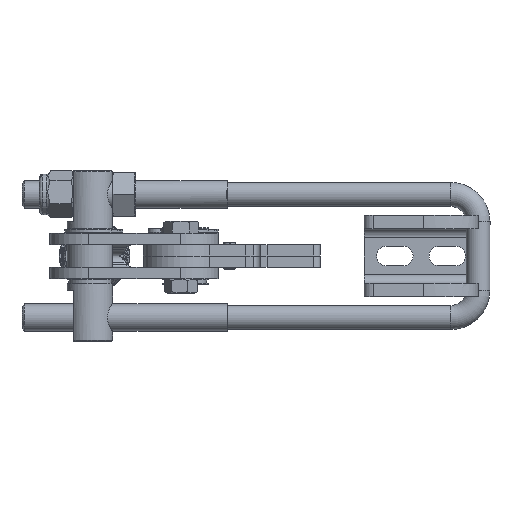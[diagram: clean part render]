
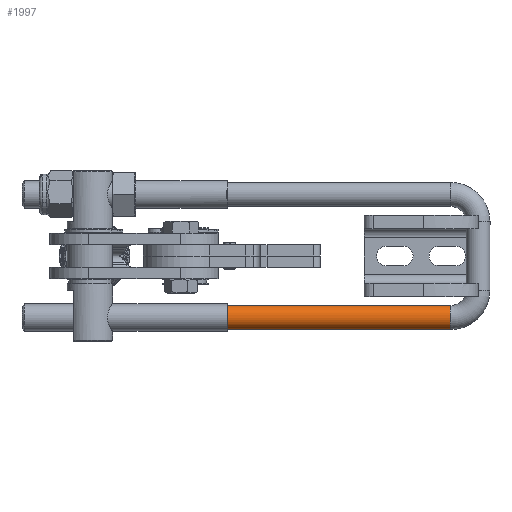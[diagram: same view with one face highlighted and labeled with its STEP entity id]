
A CAD part, left-side view. The second image highlights one B-rep face of the part: STEP entity #1997.
In plain terms, the highlighted cylindrical face has radius 5.25 mm (diameter 10.5 mm), a partial arc.
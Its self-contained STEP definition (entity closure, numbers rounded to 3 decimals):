
#1228 = EDGE_CURVE ( 'NONE', #21618, #2959, #1615, .T. ) ;
#1615 = LINE ( 'NONE', #12758, #5991 ) ;
#1847 = DIRECTION ( 'NONE',  ( 1., 0., 0. ) ) ;
#1997 = ADVANCED_FACE ( 'NONE', ( #18119 ), #3466, .T. ) ;
#2959 = VERTEX_POINT ( 'NONE', #8823 ) ;
#3431 = VERTEX_POINT ( 'NONE', #14204 ) ;
#3466 = CYLINDRICAL_SURFACE ( 'NONE', #21736, 5.25 ) ;
#5488 = DIRECTION ( 'NONE',  ( 0., 0., 1. ) ) ;
#5905 = VERTEX_POINT ( 'NONE', #8344 ) ;
#5991 = VECTOR ( 'NONE', #1847, 1000. ) ;
#6629 = CIRCLE ( 'NONE', #16213, 5.25 ) ;
#7320 = CARTESIAN_POINT ( 'NONE',  ( 12., 0., 32.25 ) ) ;
#7626 = CARTESIAN_POINT ( 'NONE',  ( 12., 0., 21.75 ) ) ;
#8062 = ORIENTED_EDGE ( 'NONE', *, *, #1228, .F. ) ;
#8255 = CIRCLE ( 'NONE', #18622, 5.25 ) ;
#8344 = CARTESIAN_POINT ( 'NONE',  ( 110., 0., 21.75 ) ) ;
#8752 = EDGE_CURVE ( 'NONE', #3431, #5905, #14835, .T. ) ;
#8770 = ORIENTED_EDGE ( 'NONE', *, *, #20727, .F. ) ;
#8823 = CARTESIAN_POINT ( 'NONE',  ( 110., 0., 32.25 ) ) ;
#8836 = DIRECTION ( 'NONE',  ( -1., 0., 0. ) ) ;
#9101 = DIRECTION ( 'NONE',  ( 1., 0., 0. ) ) ;
#9343 = DIRECTION ( 'NONE',  ( 0., 0., -1. ) ) ;
#9656 = ORIENTED_EDGE ( 'NONE', *, *, #13603, .F. ) ;
#11566 = DIRECTION ( 'NONE',  ( 1., 0., 0. ) ) ;
#12427 = ORIENTED_EDGE ( 'NONE', *, *, #8752, .T. ) ;
#12758 = CARTESIAN_POINT ( 'NONE',  ( 12., 0., 32.25 ) ) ;
#13472 = CARTESIAN_POINT ( 'NONE',  ( 110., 0., 27. ) ) ;
#13603 = EDGE_CURVE ( 'NONE', #3431, #21618, #6629, .T. ) ;
#14057 = EDGE_LOOP ( 'NONE', ( #8062, #9656, #12427, #8770 ) ) ;
#14204 = CARTESIAN_POINT ( 'NONE',  ( 12., 0., 21.75 ) ) ;
#14835 = LINE ( 'NONE', #7626, #16109 ) ;
#14959 = DIRECTION ( 'NONE',  ( 1., 0., 0. ) ) ;
#16109 = VECTOR ( 'NONE', #14959, 1000. ) ;
#16213 = AXIS2_PLACEMENT_3D ( 'NONE', #19888, #8836, #5488 ) ;
#17086 = DIRECTION ( 'NONE',  ( 0., 0., -1. ) ) ;
#18119 = FACE_OUTER_BOUND ( 'NONE', #14057, .T. ) ;
#18622 = AXIS2_PLACEMENT_3D ( 'NONE', #13472, #11566, #17086 ) ;
#19888 = CARTESIAN_POINT ( 'NONE',  ( 12., 0., 27. ) ) ;
#20151 = CARTESIAN_POINT ( 'NONE',  ( 12., 0., 27. ) ) ;
#20727 = EDGE_CURVE ( 'NONE', #2959, #5905, #8255, .T. ) ;
#21618 = VERTEX_POINT ( 'NONE', #7320 ) ;
#21736 = AXIS2_PLACEMENT_3D ( 'NONE', #20151, #9101, #9343 ) ;
